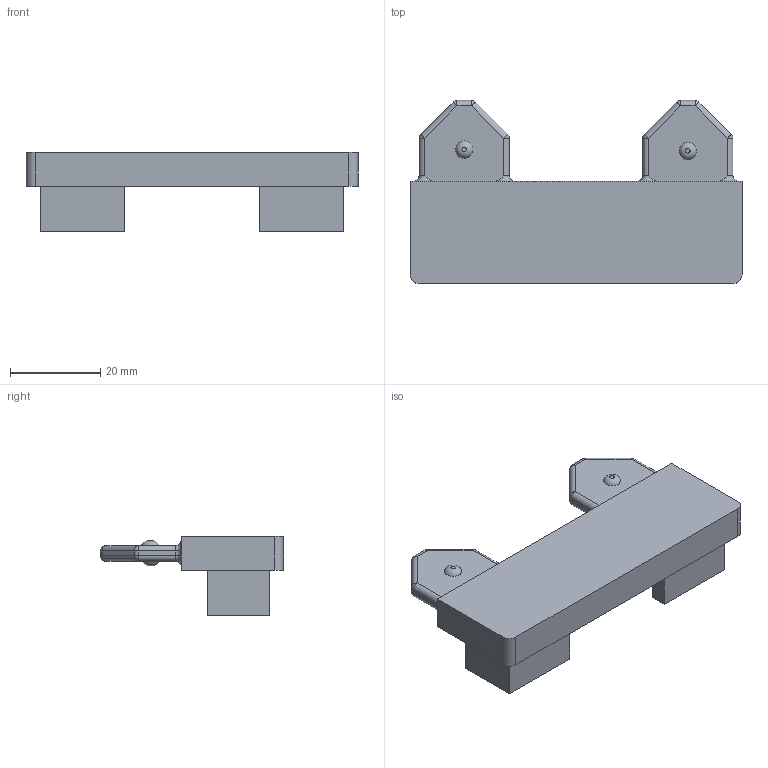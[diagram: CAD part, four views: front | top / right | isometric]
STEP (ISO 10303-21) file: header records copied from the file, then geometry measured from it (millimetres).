
FILE_DESCRIPTION(/* description */ ('STEP AP242 Edition 2','CAx-IF Rec.Pracs.---Representation and Presentation of Product Manufacturing Information (PMI)---4.0---2014-10-13','CAx-IF Rec.Pracs.---3D Tessellated Geometry---0.4---2014-09-14','2;1','CAx-IF Rec.Pracs.---User Defined Attributes---1.5---2016-08-15'),/* implementation_level */ '2;1');
FILE_NAME(/* name */ 'Part Studio 1 - BatteryTop2',/* time_stamp */ '2026-11-25T23:28:50Z',/* author */ (''),/* organization */ (''),/* preprocessor_version */ 'ST-DEVELOPER v20',/* originating_system */ 'ONSHAPE BY PTC INC, 1.224',/* authorisation */ ' ');
FILE_SCHEMA (('AP242_MANAGED_MODEL_BASED_3D_ENGINEERING_MIM_LF { 1 0 10303 442 3 1 4 }'));
Length unit declared in the file: metre
Products named in the file (1): BatteryTop2
Bounding box: 73.5 x 40.53 x 17.5 mm (x, y, z)
Volume: 16711.6 mm3; surface area: 7337.4 mm2
Topology: 1 solids, 1 shells, 124 faces, 278 edges, 156 vertices
Faces by surface type: plane 46, cylinder 42, torus 20, sphere 16
Full cylindrical faces by diameter (mm): 0.55 x8
Entity records: 3152 total; most frequent: DIRECTION 584, CARTESIAN_POINT 539, ORIENTED_EDGE 468, EDGE_CURVE 234, AXIS2_PLACEMENT_3D 233, EDGE_LOOP 160, FACE_BOUND 160, VERTEX_POINT 148
